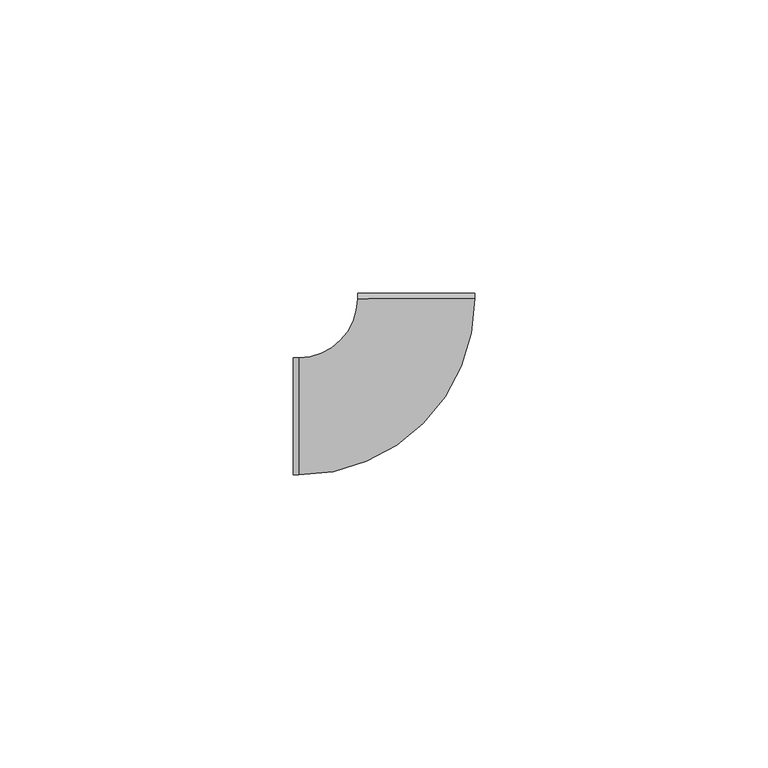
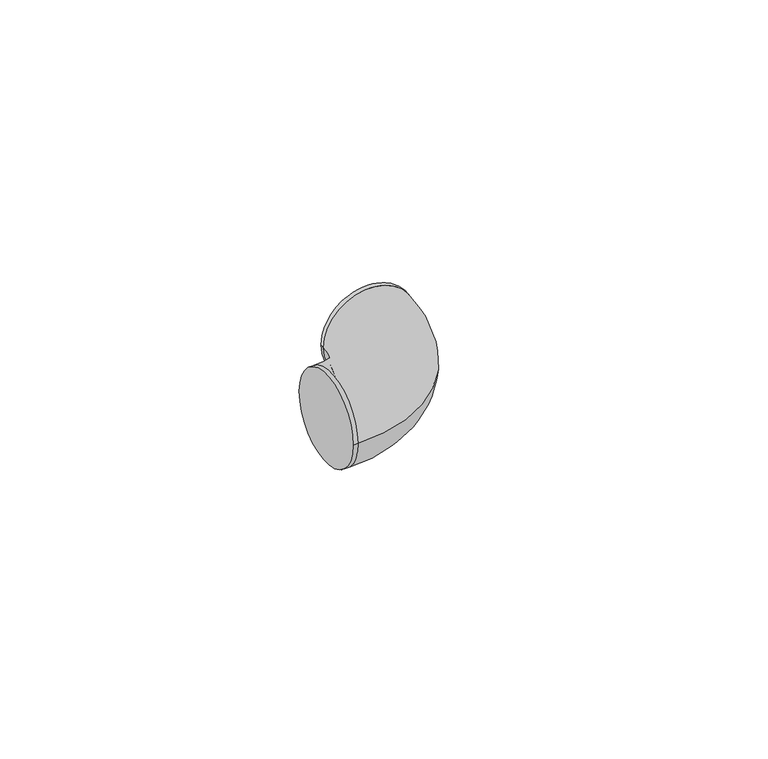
"""IFC4 building model written with IfcOpenShell, lengths in millimetres: cable carrier fitting geometry, ADSK_Поворот_Минимальный размер : Неспецифицируемый."""

from ifc_helpers import new_model, si_unit, point, frame, origin, place, context, project, spatial, circle_curve, ellipse_curve, trimmed, source, transform, mapped, element, save
from ifc_brep_helpers import plane_surface, cylinder_surface, revolved_surface, advanced_brep


def cable_carrier_fitting_70942936(model_context):
    return source(origin(), model_context, "Body", "AdvancedBrep", [
        advanced_brep(
        [(-21.0055522, -10.0, 0.0), (-21.0055522, 10.0, 0.0), (-20.0055522, -10.0, 0.0), (-20.0055522, 10.0, 0.0), (-10.0055526, 20.0027757, 0.0), (9.9944466, 20.0083272, 0.0), (9.994169, 21.0083272, 0.0), (-10.0058302, 21.0027757, 0.0)],
        [
            (0, 1, circle_curve(frame((-21.0055522, 0.0, 0.0), z_axis=(-1.0, -4.92260399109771e-12, 0.0), x_axis=(-4.92260399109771e-12, 1.0, 0.0)), 10.0)),
            (1, 0, circle_curve(frame((-21.0055522, 0.0, 0.0), z_axis=(-1.0, -4.92260399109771e-12, 0.0), x_axis=(-4.92260399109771e-12, 1.0, 0.0)), 10.0)),
            (0, 2),
            (2, 3, circle_curve(frame((-20.0055522, 0.0, 0.0), z_axis=(-1.0, -4.92260399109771e-12, 0.0), x_axis=(-4.92260399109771e-12, 1.0, 0.0)), 10.0)),
            (3, 1),
            (3, 2, circle_curve(frame((-20.0055522, 0.0, 0.0), z_axis=(-1.0, -4.92260399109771e-12, 0.0), x_axis=(-4.92260399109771e-12, 1.0, 0.0)), 10.0)),
            (4, 3, circle_curve(frame((-20.0055522, 20.0, 0.0), z_axis=(0.0, 0.0, -1.0), x_axis=(0.0, -1.0, 0.0)), 10.0)),
            (2, 5, circle_curve(frame((-20.0055522, 20.0, 0.0), z_axis=(0.0, 0.0, 1.0), x_axis=(0.0, -1.0, 0.0)), 30.0)),
            (5, 4, circle_curve(frame((-0.005553, 20.0055515, 0.0), z_axis=(0.00027757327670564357, -0.9999999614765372, 0.0), x_axis=(-0.9999999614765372, -0.00027757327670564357, 0.0)), 10.0)),
            (4, 5, circle_curve(frame((-0.005553, 20.0055515, 0.0), z_axis=(0.00027757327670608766, -0.9999999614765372, 0.0), x_axis=(-0.9999999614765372, -0.00027757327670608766, 0.0)), 10.0)),
            (6, 7, circle_curve(frame((-0.0058306, 21.0055514, 0.0), z_axis=(-0.00027757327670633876, 0.9999999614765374, 0.0), x_axis=(-0.9999999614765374, -0.00027757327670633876, 0.0)), 10.0)),
            (7, 6, circle_curve(frame((-0.0058306, 21.0055514, 0.0), z_axis=(-0.00027757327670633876, 0.9999999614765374, 0.0), x_axis=(-0.9999999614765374, -0.00027757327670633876, 0.0)), 10.0)),
            (5, 6),
            (7, 4),
        ],
        [
            plane_surface(frame((-21.0055522, 0.0, 0.0), z_axis=(-1.0, -4.92260399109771e-12, 0.0), x_axis=(0.0, 0.0, 1.0))),
            cylinder_surface(frame((-21.0055522, 0.0, 0.0), z_axis=(-1.0, -4.92260399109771e-12, 0.0), x_axis=(-4.92260399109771e-12, 1.0, 0.0)), 10.0),
            revolved_surface(trimmed(ellipse_curve(frame((-20.0055522, 0.0, 0.0), z_axis=(-1.0, 0.0, 0.0), x_axis=(0.0, 1.0, 0.0)), 10.0, 10.0), [point((-20.0055522, -10.0, 0.0))], [point((-20.0055522, 10.0, 0.0))], True, "CARTESIAN"), (-20.0055522, 20.0, 0.0), (0.0, 0.0, 1.0)),
            revolved_surface(trimmed(ellipse_curve(frame((-20.0055522, 0.0, 0.0), z_axis=(-1.0, 0.0, 0.0), x_axis=(0.0, 1.0, 0.0)), 10.0, 10.0), [point((-20.0055522, 10.0, 0.0))], [point((-20.0055522, -10.0, 0.0))], True, "CARTESIAN"), (-20.0055522, 20.0, 0.0), (0.0, 0.0, 1.0)),
            plane_surface(frame((-0.0058306, 21.0055514, 0.0), z_axis=(-0.0002775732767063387, 0.9999999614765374, 0.0), x_axis=(0.0, 0.0, 1.0))),
            cylinder_surface(frame((-0.005553, 20.0055515, 0.0), z_axis=(0.00027757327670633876, -0.9999999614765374, 0.0), x_axis=(-0.9999999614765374, -0.00027757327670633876, 0.0)), 10.0),
        ],
        [
            (0, [[1, 2]]),
            (1, [[-1, 3, 4, 5]]),
            (1, [[-2, -5, 6, -3]]),
            (2, [[7, -4, 8, 9]]),
            (3, [[-8, -6, -7, 10]]),
            (4, [[11, 12]]),
            (5, [[-9, 13, -12, 14]]),
            (5, [[-10, -14, -11, -13]]),
        ],
    ),
    ])


if __name__ == "__main__":
    model = new_model("IFC4")
    model_context = context("Model", 3, world=origin())
    ifc_project = project(units=[si_unit("LENGTHUNIT", "METRE", prefix="MILLI")], contexts=[model_context])
    site = spatial("IfcSite", under=ifc_project)
    building = spatial("IfcBuilding", under=site)
    placement = place(None, origin())
    cable_carrier_fitting_shape = cable_carrier_fitting_70942936(model_context)
    element("IfcCableCarrierFitting", 1, ObjectType="ADSK_Поворот_Минимальный размер : Неспецифицируемый", at=placement, inside=building, context=model_context, shape_type="MappedRepresentation", body=[
        mapped(cable_carrier_fitting_shape, transform((0.0, 0.0, 0.0), x_axis=(1.0, 0.0, 0.0), y_axis=(0.0, 1.0, 0.0), z_axis=(0.0, 0.0, 1.0))),
    ])
    save(model, "model.ifc")
